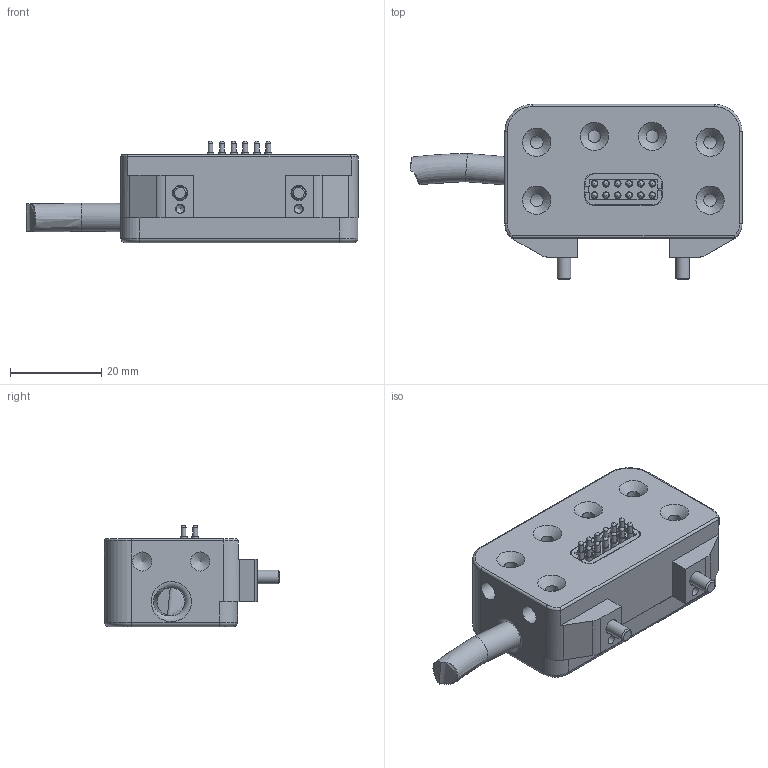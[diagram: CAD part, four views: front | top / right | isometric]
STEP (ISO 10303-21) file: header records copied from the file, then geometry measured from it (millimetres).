
FILE_DESCRIPTION(/* description */ (''),/* implementation_level */ '2;1');
FILE_NAME(/* name */ 'T:\CAD\Standard\SHW\SEK-P\SEK100\SEK100-6PM5-1FE12\G-SEK100-U-6PM5-1FE12-2000-OE.stp',/* time_stamp */ '2022-02-15T14:35:48+01:00',/* author */ ('vbednarz'),/* organization */ (''),/* preprocessor_version */ 'ST-DEVELOPER v17',/* originating_system */ 'Autodesk Inventor 2018',/* authorisation */ '');
FILE_SCHEMA (('AUTOMOTIVE_DESIGN { 1 0 10303 214 3 1 1 }'));
Length unit declared in the file: millimetre
Products named in the file (1): G-SEK100-U-6PM5-1FE12-40-M8.step
Bounding box: 72.79 x 38.4 x 22.24 mm (x, y, z)
Volume: 26834.9 mm3; surface area: 13657 mm2
Topology: 4 solids, 12 shells, 470 faces, 1172 edges, 795 vertices
Faces by surface type: plane 227, cylinder 169, cone 36, torus 21, bspline 17
Full cylindrical faces by diameter (mm): 0.97 x12, 1 x5, 1.07 x12, 1.5 x12, 1.65 x12, 1.8 x2, 1.98 x12, 2.02 x2, 2.05 x4, 2.5 x4, 2.8 x6, 2.9 x4, 3 x2, 3.4 x2, 4.2 x6, 4.5 x4, 5 x4, 5.5 x2, 5.8 x1, 6 x2, 6.2 x1
Entity records: 16122 total; most frequent: CARTESIAN_POINT 3956, DIRECTION 2501, ORIENTED_EDGE 2304, EDGE_CURVE 1152, AXIS2_PLACEMENT_3D 974, VERTEX_POINT 793, EDGE_LOOP 595, LINE 553
